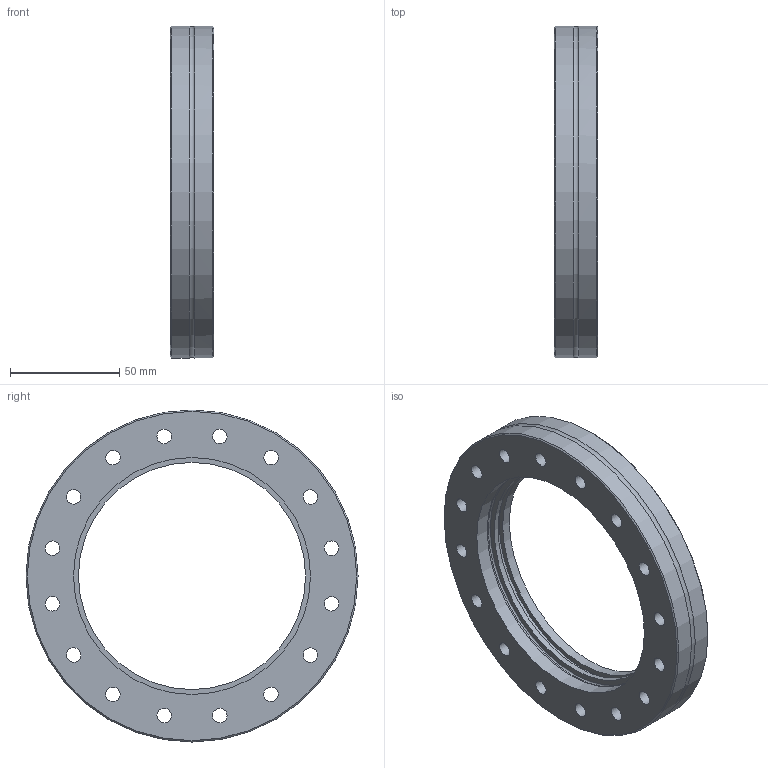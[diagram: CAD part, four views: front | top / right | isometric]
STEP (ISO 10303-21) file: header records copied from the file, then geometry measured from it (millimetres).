
FILE_DESCRIPTION((''),'2;1');
FILE_NAME('W:\13785_CF_Global_Fit_Umsetzung\059_Welding_Flange_Tapped_Holes\M213-034.stp','2010-09-01T10:37:46',('KAA'),(''),'Autodesk Inventor 2011','Autodesk Inventor 2011','');
FILE_SCHEMA(('AUTOMOTIVE_DESIGN { 1 0 10303 214 1 1 1 1 }'));
Length unit declared in the file: millimetre
Products named in the file (1): 213-034
Bounding box: 20 x 152 x 152 mm (x, y, z)
Volume: 168659.8 mm3; surface area: 42790.1 mm2
Topology: 1 solids, 1 shells, 41 faces, 115 edges, 79 vertices
Faces by surface type: cylinder 23, cone 7, plane 6, torus 5
Full cylindrical faces by diameter (mm): 6.647 x16, 104 x2, 108.5 x2, 152 x2
Entity records: 1154 total; most frequent: CARTESIAN_POINT 203, DIRECTION 198, ORIENTED_EDGE 130, EDGE_LOOP 110, AXIS2_PLACEMENT_3D 98, FACE_BOUND 69, EDGE_CURVE 65, VERTEX_POINT 61
